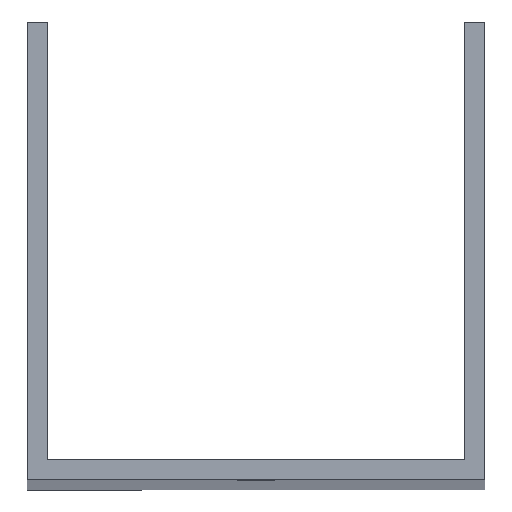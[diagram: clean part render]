
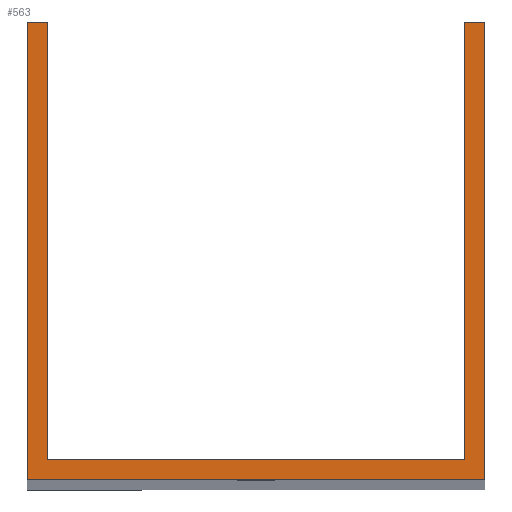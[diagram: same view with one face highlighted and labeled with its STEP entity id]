
A CAD part, top view. The second image highlights one B-rep face of the part: STEP entity #563.
In plain terms, the highlighted planar face has unit normal (0, 0, 1).
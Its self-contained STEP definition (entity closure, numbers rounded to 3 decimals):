
#19 = CARTESIAN_POINT ( 'NONE',  ( 36., 3.5, 500. ) ) ;
#67 = ORIENTED_EDGE ( 'NONE', *, *, #383, .F. ) ;
#116 = CARTESIAN_POINT ( 'NONE',  ( 39.5, 0., 500. ) ) ;
#135 = ORIENTED_EDGE ( 'NONE', *, *, #392, .T. ) ;
#154 = DIRECTION ( 'NONE',  ( 0., 1., 0. ) ) ;
#195 = EDGE_CURVE ( 'NONE', #521, #1427, #993, .T. ) ;
#212 = DIRECTION ( 'NONE',  ( 0., 1., 0. ) ) ;
#245 = EDGE_CURVE ( 'NONE', #1050, #1289, #1368, .T. ) ;
#261 = DIRECTION ( 'NONE',  ( 0., -1., 0. ) ) ;
#302 = CARTESIAN_POINT ( 'NONE',  ( 36., 79., 500. ) ) ;
#339 = EDGE_CURVE ( 'NONE', #484, #1050, #1669, .T. ) ;
#344 = ORIENTED_EDGE ( 'NONE', *, *, #787, .T. ) ;
#349 = ORIENTED_EDGE ( 'NONE', *, *, #195, .F. ) ;
#356 = PLANE ( 'NONE',  #1487 ) ;
#375 = CARTESIAN_POINT ( 'NONE',  ( -36., 79., 500. ) ) ;
#377 = VECTOR ( 'NONE', #1020, 1000. ) ;
#383 = EDGE_CURVE ( 'NONE', #961, #521, #503, .T. ) ;
#392 = EDGE_CURVE ( 'NONE', #961, #565, #1295, .T. ) ;
#467 = CARTESIAN_POINT ( 'NONE',  ( 0., 0., 500. ) ) ;
#472 = CARTESIAN_POINT ( 'NONE',  ( -36., 79., 500. ) ) ;
#484 = VERTEX_POINT ( 'NONE', #1450 ) ;
#500 = CARTESIAN_POINT ( 'NONE',  ( 36., 79., 500. ) ) ;
#503 = LINE ( 'NONE', #375, #1623 ) ;
#521 = VERTEX_POINT ( 'NONE', #695 ) ;
#524 = CARTESIAN_POINT ( 'NONE',  ( -39.5, 0., 500. ) ) ;
#563 = ADVANCED_FACE ( 'NONE', ( #997 ), #356, .T. ) ;
#565 = VERTEX_POINT ( 'NONE', #1373 ) ;
#611 = EDGE_CURVE ( 'NONE', #1289, #1140, #1091, .T. ) ;
#628 = ORIENTED_EDGE ( 'NONE', *, *, #816, .F. ) ;
#695 = CARTESIAN_POINT ( 'NONE',  ( -36., 3.5, 500. ) ) ;
#712 = DIRECTION ( 'NONE',  ( 1., 0., 0. ) ) ;
#726 = ORIENTED_EDGE ( 'NONE', *, *, #339, .T. ) ;
#730 = ORIENTED_EDGE ( 'NONE', *, *, #245, .T. ) ;
#787 = EDGE_CURVE ( 'NONE', #565, #484, #1017, .T. ) ;
#816 = EDGE_CURVE ( 'NONE', #1427, #1140, #1565, .T. ) ;
#837 = DIRECTION ( 'NONE',  ( -1., 0., 0. ) ) ;
#841 = CARTESIAN_POINT ( 'NONE',  ( 39.5, 79., 500. ) ) ;
#855 = CARTESIAN_POINT ( 'NONE',  ( -39.5, 3.5, 500. ) ) ;
#888 = DIRECTION ( 'NONE',  ( -1., 0., 0. ) ) ;
#903 = DIRECTION ( 'NONE',  ( 0., -1., 0. ) ) ;
#961 = VERTEX_POINT ( 'NONE', #472 ) ;
#993 = LINE ( 'NONE', #855, #1162 ) ;
#997 = FACE_OUTER_BOUND ( 'NONE', #1585, .T. ) ;
#999 = VECTOR ( 'NONE', #888, 1000. ) ;
#1017 = LINE ( 'NONE', #1033, #1656 ) ;
#1020 = DIRECTION ( 'NONE',  ( 1., 0., 0. ) ) ;
#1033 = CARTESIAN_POINT ( 'NONE',  ( -39.5, 79., 500. ) ) ;
#1050 = VERTEX_POINT ( 'NONE', #116 ) ;
#1080 = VECTOR ( 'NONE', #154, 1000. ) ;
#1091 = LINE ( 'NONE', #1499, #1215 ) ;
#1116 = CARTESIAN_POINT ( 'NONE',  ( 39.5, 79., 500. ) ) ;
#1119 = ORIENTED_EDGE ( 'NONE', *, *, #611, .T. ) ;
#1140 = VERTEX_POINT ( 'NONE', #500 ) ;
#1162 = VECTOR ( 'NONE', #1237, 1000. ) ;
#1215 = VECTOR ( 'NONE', #837, 1000. ) ;
#1227 = DIRECTION ( 'NONE',  ( 0., 0., 1. ) ) ;
#1237 = DIRECTION ( 'NONE',  ( 1., 0., 0. ) ) ;
#1288 = CARTESIAN_POINT ( 'NONE',  ( -39.5, 79., 500. ) ) ;
#1289 = VERTEX_POINT ( 'NONE', #1116 ) ;
#1295 = LINE ( 'NONE', #1288, #999 ) ;
#1297 = VECTOR ( 'NONE', #212, 1000. ) ;
#1368 = LINE ( 'NONE', #841, #1297 ) ;
#1373 = CARTESIAN_POINT ( 'NONE',  ( -39.5, 79., 500. ) ) ;
#1427 = VERTEX_POINT ( 'NONE', #19 ) ;
#1450 = CARTESIAN_POINT ( 'NONE',  ( -39.5, 0., 500. ) ) ;
#1487 = AXIS2_PLACEMENT_3D ( 'NONE', #467, #1227, #712 ) ;
#1499 = CARTESIAN_POINT ( 'NONE',  ( -39.5, 79., 500. ) ) ;
#1565 = LINE ( 'NONE', #302, #1080 ) ;
#1585 = EDGE_LOOP ( 'NONE', ( #67, #135, #344, #726, #730, #1119, #628, #349 ) ) ;
#1623 = VECTOR ( 'NONE', #261, 1000. ) ;
#1656 = VECTOR ( 'NONE', #903, 1000. ) ;
#1669 = LINE ( 'NONE', #524, #377 ) ;
